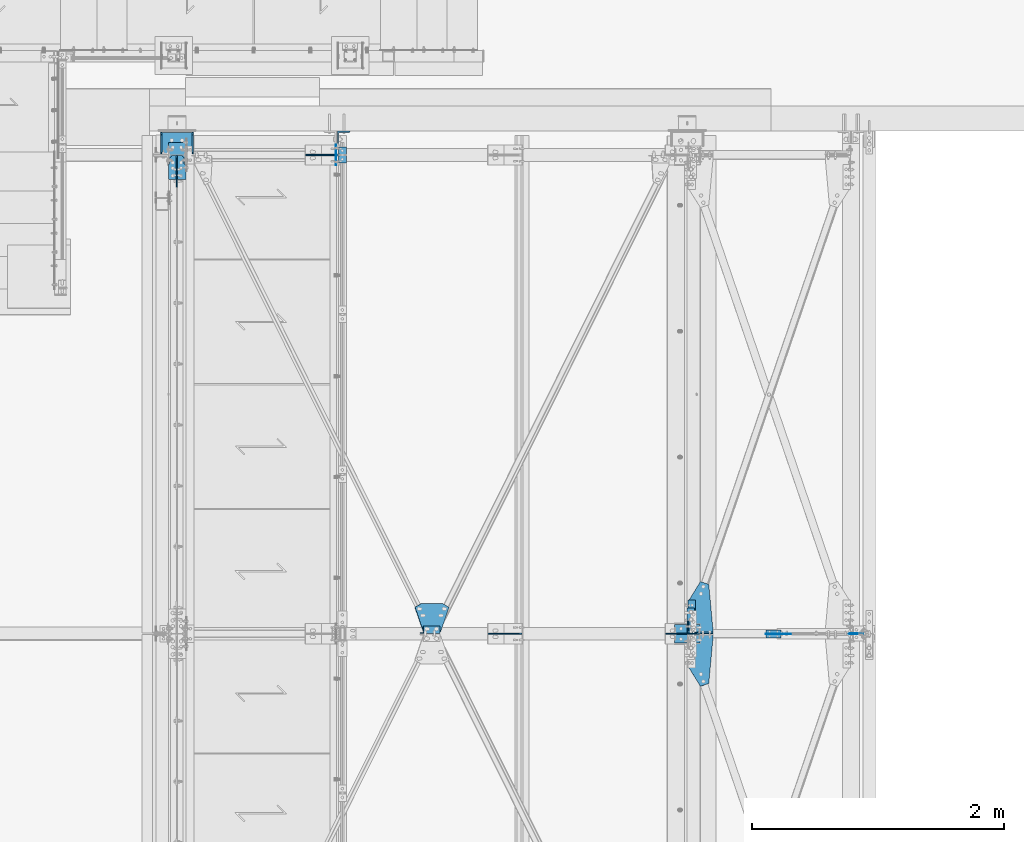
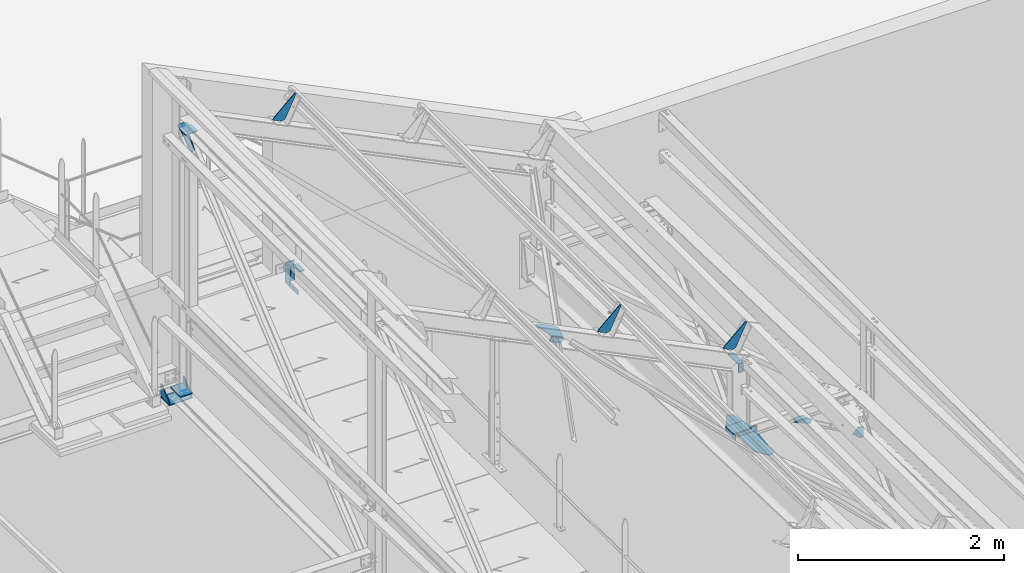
# One storey, part 112 of 362: 20 beams, 2 members, 17 elements without a shape of their own.
"""IFC2X3 building model written with IfcOpenShell, lengths in millimetres."""

from ifc_helpers import new_model, si_unit, frame, frame_2d, origin_with_axes, origin_2d_with_axis, place, context, subcontext, project, spatial, polyline, circle_curve, parameter, trimmed, segment, composite_curve, rectangle, l_section, outline, extrude, clip, halfspace, material, type_object, element, aggregate, save


model = new_model("IFC2X3")

# Units and contexts
model_context = context("Model", 3, precision=1e-05, world=origin_with_axes())
body_context = subcontext(model_context, "Body", "Model", "MODEL_VIEW")
ifc_project = project(units=[si_unit("LENGTHUNIT", "METRE", prefix="MILLI"), si_unit("AREAUNIT", "SQUARE_METRE"), si_unit("VOLUMEUNIT", "CUBIC_METRE"), si_unit("MASSUNIT", "GRAM", prefix="KILO"), si_unit("TIMEUNIT", "SECOND"), si_unit("PLANEANGLEUNIT", "RADIAN"), si_unit("SOLIDANGLEUNIT", "STERADIAN"), si_unit("THERMODYNAMICTEMPERATUREUNIT", "DEGREE_CELSIUS"), si_unit("LUMINOUSINTENSITYUNIT", "LUMEN")], contexts=[model_context])

# Site, building, storey
site_placement = place(None, origin_with_axes())
site = spatial("IfcSite", under=ifc_project, at=site_placement, Name="Undefined", CompositionType="ELEMENT")
building_placement = place(site_placement, origin_with_axes())
building = spatial("IfcBuilding", under=site, at=building_placement, Name="Undefined", CompositionType="ELEMENT")
storey_placement = place(building_placement, origin_with_axes())
storey = spatial("IfcBuildingStorey", under=building, at=storey_placement, Name="Undefined", CompositionType="ELEMENT", Elevation=0.0)

# Assembly, beam
assembly_1_placement = place(storey_placement, origin_with_axes())
assembly_1 = element("IfcElementAssembly", 1, at=assembly_1_placement, inside=storey, Name="MAIN COURANTE", AssemblyPlace="NOTDEFINED", PredefinedType="NOTDEFINED")
ifc_material = material(Name="Undefined/S235-E24")
beam_type_1 = type_object("IfcBeamType", Name="PL10*60", PredefinedType="NOTDEFINED")
beam_1_placement = place(assembly_1_placement, frame((35593.9917224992, 15265.0000000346, 8244.99999825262), z_axis=(-1.0, 0.0, 0.0), x_axis=(0.0, -1.0, 0.0)))
beam_1 = element("IfcBeam", 2, at=beam_1_placement, type_object=beam_type_1, material=ifc_material, Name="PLATINE", ObjectType="PL10*60", context=body_context, shape_type="SweptSolid", body=[
    extrude(rectangle(XDim=10.0, YDim=60.0, at=origin_2d_with_axis()), frame((130.0, 0.0, 0.0), z_axis=(-1.0, 0.0, 0.0), x_axis=(0.0, -1.0, 0.0)), (0.0, 0.0, 1.0), 130.0),
])
aggregate(assembly_1, [beam_1])

assembly_2_placement = place(storey_placement, origin_with_axes())
assembly_2 = element("IfcElementAssembly", 3, at=assembly_2_placement, inside=storey, AssemblyPlace="NOTDEFINED", PredefinedType="NOTDEFINED")
beam_type_2 = type_object("IfcBeamType", Name="L60*6", PredefinedType="NOTDEFINED")
beam_2_placement = place(assembly_2_placement, frame((38365.0000000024, 11666.8513345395, 7527.27741224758), z_axis=(-1.05403257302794e-09, -0.0314112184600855, -0.999506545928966), x_axis=(0.0, -0.999506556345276, 0.031410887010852)))
beam_2 = element("IfcBeam", 4, at=beam_2_placement, type_object=beam_type_2, material=ifc_material, Name="ATTACHE", ObjectType="L60*6", context=body_context, shape_type="SweptSolid", body=[
    extrude(l_section(Depth=60.0, Width=60.0, Thickness=6.0, FilletRadius=8.0, EdgeRadius=4.0, at=origin_2d_with_axis()), frame((200.0, 0.0, 0.0), z_axis=(-1.0, 0.0, 0.0), x_axis=(0.0, -1.0, 0.0)), (0.0, 0.0, 1.0), 200.0),
])
aggregate(assembly_2, [beam_2])

assembly_3_placement = place(storey_placement, origin_with_axes())
assembly_3 = element("IfcElementAssembly", 5, at=assembly_3_placement, inside=storey, Name="TRAVERSE SHED", AssemblyPlace="NOTDEFINED", PredefinedType="NOTDEFINED")
beam_type_3 = type_object("IfcBeamType", Name="PL10*200", PredefinedType="NOTDEFINED")
beam_3_placement = place(assembly_3_placement, frame((38330.0, 11474.8056218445, 7694.39265439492), z_axis=(-1.0, 0.0, 0.0), x_axis=(0.0, -0.999506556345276, 0.031410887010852)))
beam_3 = element("IfcBeam", 6, at=beam_3_placement, type_object=beam_type_3, material=ifc_material, Name="PLATINE", ObjectType="PL10*200", context=body_context, shape_type="SweptSolid", body=[
    extrude(rectangle(XDim=10.0, YDim=200.0, at=origin_2d_with_axis()), frame((150.0, 0.0, 0.0), z_axis=(-1.0, 0.0, 0.0), x_axis=(0.0, -1.0, 0.0)), (0.0, 0.0, 1.0), 150.0),
])
aggregate(assembly_3, [beam_3])

# Assembly, member
assembly_4_placement = place(storey_placement, origin_with_axes())
assembly_4 = element("IfcElementAssembly", 7, at=assembly_4_placement, inside=storey, AssemblyPlace="NOTDEFINED", PredefinedType="NOTDEFINED")
member_type_1 = type_object("IfcMemberType", Name="L60*6", PredefinedType="NOTDEFINED")
member_1_placement = place(assembly_4_placement, frame((36356.4176003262, 11433.0002509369, 9417.96207206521), z_axis=(0.0, 1.0, 0.0), x_axis=(-0.897398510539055, -1.29999898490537e-08, 0.441220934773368)))
member_1 = element("IfcMember", 8, at=member_1_placement, type_object=member_type_1, material=ifc_material, Name="ATTACHE", ObjectType="L60*6", context=body_context, shape_type="SweptSolid", body=[
    extrude(l_section(Depth=60.0, Width=60.0, Thickness=6.0, FilletRadius=8.0, EdgeRadius=4.0, at=origin_2d_with_axis()), frame((150.0, 0.0, 0.0), z_axis=(-1.0, 0.0, 0.0), x_axis=(0.0, -1.0, 0.0)), (0.0, 0.0, 1.0), 150.0),
])
aggregate(assembly_4, [member_1])

# Assembly, beam
assembly_5_placement = place(storey_placement, origin_with_axes())
assembly_5 = element("IfcElementAssembly", 9, at=assembly_5_placement, inside=storey, Name="PANNE SHED", AssemblyPlace="NOTDEFINED", PredefinedType="NOTDEFINED")
beam_type_4 = type_object("IfcBeamType", Name="TOLE8*140", PredefinedType="NOTDEFINED")
beam_4_placement = place(assembly_5_placement, frame((35310.1044072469, 15200.0, 10117.3786897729), z_axis=(0.0, -1.0, 0.0), x_axis=(-0.441220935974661, 0.0, -0.89739850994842)))
beam_4 = element("IfcBeam", 10, at=beam_4_placement, type_object=beam_type_4, material=ifc_material, Name="RAIDISSEUR", ObjectType="TOLE8*140", context=body_context, shape_type="SweptSolid", body=[
    extrude(outline(polyline([(0.0, 0.0), (19.9999999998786, -3.63797880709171e-12), (20.0000000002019, 109.999999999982), (-9.99999999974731, 139.99998998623), (-300.0000000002, 139.999893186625), (-300.000000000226, 119.999893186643), (0.0, 0.0)])), frame((0.0, 0.0, -4.0), z_axis=(0.0, 0.0, 1.0), x_axis=(1.0, 0.0, 0.0)), (0.0, 0.0, 1.0), 8.0),
])
aggregate(assembly_5, [beam_4])

assembly_6_placement = place(storey_placement, origin_with_axes())
assembly_6 = element("IfcElementAssembly", 11, at=assembly_6_placement, inside=storey, Name="PANNE SHED", AssemblyPlace="NOTDEFINED", PredefinedType="NOTDEFINED")
beam_5_placement = place(assembly_6_placement, frame((38167.3881652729, 11400.0, 8712.54750741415), z_axis=(0.0, -1.0, 0.0), x_axis=(-0.441220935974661, 0.0, -0.89739850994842)))
beam_5 = element("IfcBeam", 12, at=beam_5_placement, type_object=beam_type_4, material=ifc_material, Name="RAIDISSEUR", ObjectType="TOLE8*140", context=body_context, shape_type="SweptSolid", body=[
    extrude(outline(polyline([(0.0, 0.0), (19.9999999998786, -3.63797880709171e-12), (20.0000000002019, 109.999999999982), (-9.99999999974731, 139.99998998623), (-300.0000000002, 139.999893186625), (-300.000000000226, 119.999893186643), (0.0, 0.0)])), frame((0.0, 0.0, -4.0), z_axis=(0.0, 0.0, 1.0), x_axis=(1.0, 0.0, 0.0)), (0.0, 0.0, 1.0), 8.0),
])
aggregate(assembly_6, [beam_5])

assembly_7_placement = place(storey_placement, origin_with_axes())
assembly_7 = element("IfcElementAssembly", 13, at=assembly_7_placement, inside=storey, Name="PANNE SHED", AssemblyPlace="NOTDEFINED", PredefinedType="NOTDEFINED")
beam_6_placement = place(assembly_7_placement, frame((36758.937741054, 11400.0, 9405.03563331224), z_axis=(0.0, -1.0, 0.0), x_axis=(-0.441220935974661, 0.0, -0.89739850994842)))
beam_6 = element("IfcBeam", 14, at=beam_6_placement, type_object=beam_type_4, material=ifc_material, Name="RAIDISSEUR", ObjectType="TOLE8*140", context=body_context, shape_type="SweptSolid", body=[
    extrude(outline(polyline([(0.0, 0.0), (19.9999999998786, -3.63797880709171e-12), (20.0000000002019, 109.999999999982), (-9.99999999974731, 139.99998998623), (-300.0000000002, 139.999893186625), (-300.000000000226, 119.999893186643), (0.0, 0.0)])), frame((0.0, 0.0, -4.0), z_axis=(0.0, 0.0, 1.0), x_axis=(1.0, 0.0, 0.0)), (0.0, 0.0, 1.0), 8.0),
])
aggregate(assembly_7, [beam_6])

assembly_8_placement = place(storey_placement, origin_with_axes())
assembly_8 = element("IfcElementAssembly", 15, at=assembly_8_placement, inside=storey, AssemblyPlace="NOTDEFINED", PredefinedType="NOTDEFINED")
beam_type_5 = type_object("IfcBeamType", Name="TOLE6*175", PredefinedType="NOTDEFINED")
beam_7_placement = place(assembly_8_placement, frame((39553.8612508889, 11399.9999999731, 7221.78488455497), z_axis=(0.0, -1.0, 0.0), x_axis=(0.742856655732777, 0.0, -0.66945051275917)))
beam_7 = element("IfcBeam", 16, at=beam_7_placement, type_object=beam_type_5, material=ifc_material, Name="GOUSSET", ObjectType="TOLE6*175", context=body_context, shape_type="Clipping", body=[
    clip(clip(clip(clip(clip(clip(extrude(outline(polyline([(0.0, 0.0), (181.917663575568, 1.28420651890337e-09), (211.631942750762, 26.7780208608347), (131.297882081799, 115.920814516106), (-10.5213727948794, 48.8804740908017), (0.0, 0.0)])), frame((0.0, 0.0, -3.0), z_axis=(0.0, 0.0, 1.0), x_axis=(1.0, 0.0, 0.0)), (0.0, 0.0, 1.0), 6.0), halfspace(frame((-8526.76141441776, -6325.63528092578, -65.0000000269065), z_axis=(0.0, 0.0, 1.0), x_axis=(0.742856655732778, 0.669450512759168, 0.0)), True)), halfspace(frame((-8592.24436861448, -6252.97203332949, 64.9999999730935), z_axis=(0.0, 0.0, 1.0), x_axis=(0.742856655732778, 0.669450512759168, 0.0)), False)), halfspace(frame((-8592.24436861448, -6252.97203332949, 3734.99999997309), z_axis=(0.0, 0.0, 1.0), x_axis=(0.742856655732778, 0.669450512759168, 0.0)), False)), halfspace(frame((-8592.24436861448, -6252.97203332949, 3864.99999997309), z_axis=(0.0, 0.0, 1.0), x_axis=(0.742856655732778, 0.669450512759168, 0.0)), False)), halfspace(frame((-15511.9541167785, -12488.903559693, -65.0000000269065), z_axis=(0.0, 0.0, 1.0), x_axis=(0.742856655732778, 0.669450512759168, 0.0)), True)), halfspace(frame((76.3371354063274, 81.8482316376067, 1.81898940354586e-12), z_axis=(-0.99999974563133, -0.000713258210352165, 0.0), x_axis=(0.0, 0.0, 1.0)), False)),
])
aggregate(assembly_8, [beam_7])

# Assembly, member
assembly_9_placement = place(storey_placement, origin_with_axes())
assembly_9 = element("IfcElementAssembly", 17, at=assembly_9_placement, inside=storey, AssemblyPlace="NOTDEFINED", PredefinedType="NOTDEFINED")
member_type_2 = type_object("IfcMemberType", Name="L200*100*10", PredefinedType="NOTDEFINED")
member_2_placement = place(assembly_9_placement, frame((38435.0, 11451.7182414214, 7590.06582970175), z_axis=(1.0, 0.0, 0.0), x_axis=(7.58071938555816e-11, 0.0314107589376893, 0.999506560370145)))
member_2 = element("IfcMember", 18, at=member_2_placement, type_object=member_type_2, material=ifc_material, Name="ATTACHE", ObjectType="L200*100*10", context=body_context, shape_type="SweptSolid", body=[
    extrude(l_section(Depth=200.0, Width=100.0, Thickness=10.0, FilletRadius=15.0, EdgeRadius=7.5, at=origin_2d_with_axis()), frame((60.0, 0.0, 0.0), z_axis=(-1.0, 0.0, 0.0), x_axis=(0.0, -1.0, 0.0)), (0.0, 0.0, 1.0), 60.0),
])
aggregate(assembly_9, [member_2])

# Assembly, beam
assembly_10_placement = place(storey_placement, origin_with_axes())
assembly_10 = element("IfcElementAssembly", 19, at=assembly_10_placement, inside=storey, Name="MONTANT", AssemblyPlace="NOTDEFINED", PredefinedType="NOTDEFINED")
beam_type_6 = type_object("IfcBeamType", Name="PL10*133", PredefinedType="NOTDEFINED")
beam_8_placement = place(assembly_10_placement, frame((34280.0, 15300.0, 7255.0), z_axis=(1.0, 0.0, 0.0), x_axis=(0.0, -1.0, 0.0)))
beam_8 = element("IfcBeam", 20, at=beam_8_placement, type_object=beam_type_6, material=ifc_material, Name="PLATINE", ObjectType="PL10*133", context=body_context, shape_type="SweptSolid", body=[
    extrude(rectangle(XDim=10.0, YDim=133.0, at=origin_2d_with_axis()), frame((200.0, 0.0, 0.0), z_axis=(-1.0, 0.0, 0.0), x_axis=(0.0, -1.0, 0.0)), (0.0, 0.0, 1.0), 200.0),
])

assembly_11_placement = place(storey_placement, origin_with_axes())
assembly_11 = element("IfcElementAssembly", 21, at=assembly_11_placement, inside=storey, AssemblyPlace="NOTDEFINED", PredefinedType="NOTDEFINED")
beam_type_7 = type_object("IfcBeamType", Name="L200*100*10", PredefinedType="NOTDEFINED")
beam_9_placement = place(assembly_11_placement, frame((38390.0, 11503.5, 8400.0), z_axis=(0.0, 1.0, 0.0), x_axis=(-1.0, 0.0, 0.0)))
beam_9 = element("IfcBeam", 22, at=beam_9_placement, type_object=beam_type_7, material=ifc_material, Name="ATTACHE", ObjectType="L200*100*10", context=body_context, shape_type="SweptSolid", body=[
    extrude(l_section(Depth=200.0, Width=100.0, Thickness=10.0, FilletRadius=15.0, EdgeRadius=7.5, at=origin_2d_with_axis()), frame((60.0, 0.0, 0.0), z_axis=(-1.0, 0.0, 0.0), x_axis=(0.0, -1.0, 0.0)), (0.0, 0.0, 1.0), 60.0),
])
aggregate(assembly_11, [beam_9])

assembly_12_placement = place(storey_placement, origin_with_axes())
assembly_12 = element("IfcElementAssembly", 23, at=assembly_12_placement, inside=storey, AssemblyPlace="NOTDEFINED", PredefinedType="NOTDEFINED")
beam_type_8 = type_object("IfcBeamType", Name="TOLE6*60", PredefinedType="NOTDEFINED")
beam_10_placement = place(assembly_12_placement, frame((35542.9917140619, 15120.0, 7985.0), z_axis=(-1.0, 0.0, 0.0), x_axis=(0.0, 0.0, 1.0)))
beam_10 = element("IfcBeam", 24, at=beam_10_placement, type_object=beam_type_8, material=ifc_material, Name="PLATINE", ObjectType="TOLE6*60", context=body_context, shape_type="SweptSolid", body=[
    extrude(outline(polyline([(0.0, 0.0), (60.0, 0.0), (60.0, 159.999984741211), (0.0, 159.999984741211), (0.0, 0.0)])), frame((0.0, 0.0, -3.0), z_axis=(0.0, 0.0, 1.0), x_axis=(1.0, 0.0, 0.0)), (0.0, 0.0, 1.0), 6.0),
])
aggregate(assembly_12, [beam_10])

assembly_13_placement = place(storey_placement, origin_with_axes())
assembly_13 = element("IfcElementAssembly", 25, at=assembly_13_placement, inside=storey, AssemblyPlace="NOTDEFINED", PredefinedType="NOTDEFINED")
beam_type_9 = type_object("IfcBeamType", Name="TOLE6*281", PredefinedType="NOTDEFINED")
beam_11_placement = place(assembly_13_placement, frame((36370.9779301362, 11413.0001538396, 9447.5762782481), z_axis=(-0.441220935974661, 0.0, -0.89739850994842), x_axis=(-0.897398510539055, -1.29999898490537e-08, 0.441220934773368)))
beam_11 = element("IfcBeam", 26, at=beam_11_placement, type_object=beam_type_9, material=ifc_material, Name="GOUSSET", ObjectType="TOLE6*281", context=body_context, shape_type="SweptSolid", body=[
    extrude(outline(polyline([(0.0, 0.0), (149.999999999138, -4.0381564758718e-10), (225.299438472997, 196.258819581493), (172.823120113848, 225.348953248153), (-22.830436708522, 225.348953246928), (-75.3067550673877, 196.258804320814), (0.0, 0.0)])), frame((0.0, 0.0, -3.0), z_axis=(0.0, 0.0, 1.0), x_axis=(1.0, 0.0, 0.0)), (0.0, 0.0, 1.0), 6.0),
])
aggregate(assembly_13, [beam_11])

# Assembly, beams
assembly_14_placement = place(storey_placement, origin_with_axes())
assembly_14 = element("IfcElementAssembly", 27, at=assembly_14_placement, inside=storey, AssemblyPlace="NOTDEFINED", PredefinedType="NOTDEFINED")
beam_type_10 = type_object("IfcBeamType", Name="TOLE6*100", PredefinedType="NOTDEFINED")
beam_12_placement = place(assembly_14_placement, frame((38955.0, 11398.1199999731, 7565.58403042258), z_axis=(0.0, -1.0, 0.0), x_axis=(0.0, 0.0, -1.0)))
beam_12 = element("IfcBeam", 28, at=beam_12_placement, type_object=beam_type_10, material=ifc_material, Name="GOUSSET", ObjectType="TOLE6*100", context=body_context, shape_type="SweptSolid", body=[
    extrude(outline(polyline([(0.0, 0.0), (25.0, 0.0), (100.264556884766, 174.95246887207), (56.9098281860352, 199.859649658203), (-2.37123549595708e-06, 120.0), (0.0, 0.0)])), frame((0.0, 0.0, -3.0), z_axis=(0.0, 0.0, 1.0), x_axis=(1.0, 0.0, 0.0)), (0.0, 0.0, 1.0), 6.0),
])
beam_type_11 = type_object("IfcBeamType", Name="PL6*120", PredefinedType="NOTDEFINED")
beam_13_placement = place(assembly_14_placement, frame((39015.0, 11430.0053320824, 7567.73683472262), z_axis=(1.0, 0.0, 0.0), x_axis=(0.0, -0.999506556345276, 0.031410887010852)))
beam_13 = element("IfcBeam", 29, at=beam_13_placement, type_object=beam_type_11, material=ifc_material, Name="PLATINE", ObjectType="PL6*120", context=body_context, shape_type="SweptSolid", body=[
    extrude(rectangle(XDim=6.0, YDim=120.0, at=origin_2d_with_axis()), frame((63.999999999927, 0.0, 0.0), z_axis=(-1.0, 0.0, 0.0), x_axis=(0.0, -1.0, 0.0)), (0.0, 0.0, 1.0), 64.0),
])
aggregate(assembly_14, [beam_12, beam_13])

# Assembly, beam
assembly_15_placement = place(storey_placement, origin_with_axes())
assembly_15 = element("IfcElementAssembly", 30, at=assembly_15_placement, inside=storey, AssemblyPlace="NOTDEFINED", PredefinedType="NOTDEFINED")
beam_type_12 = type_object("IfcBeamType", Name="TOLE6*190", PredefinedType="NOTDEFINED")
beam_14_placement = place(assembly_15_placement, frame((38435.271538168, 11813.8603975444, 7555.6737565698), z_axis=(7.58071938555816e-11, 0.0314107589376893, 0.999506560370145), x_axis=(-0.525777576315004, -0.850202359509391, 0.0267186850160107)))
beam_14 = element("IfcBeam", 31, at=beam_14_placement, type_object=beam_type_12, material=ifc_material, Name="GOUSSET", ObjectType="TOLE6*190", context=body_context, shape_type="SweptSolid", body=[
    extrude(outline(polyline([(0.0, 0.0), (171.691482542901, -6.18456397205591e-10), (631.027404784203, 283.919891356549), (707.794860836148, 437.494720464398), (653.70501708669, 481.927734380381), (328.681610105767, 320.40301513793), (274.241790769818, 286.753265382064), (-15.5598268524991, 68.2487487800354), (0.0, 0.0)])), frame((0.0, 0.0, -3.0), z_axis=(0.0, 0.0, 1.0), x_axis=(1.0, 0.0, 0.0)), (0.0, 0.0, 1.0), 6.0),
])
aggregate(assembly_15, [beam_14])

assembly_16_placement = place(storey_placement, origin_with_axes())
assembly_16 = element("IfcElementAssembly", 32, at=assembly_16_placement, inside=storey, AssemblyPlace="NOTDEFINED", PredefinedType="NOTDEFINED")
beam_type_13 = type_object("IfcBeamType", Name="L100*10", PredefinedType="NOTDEFINED")
beam_15_placement = place(assembly_16_placement, frame((35602.4917140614, 15339.9999999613, 8210.00437164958), z_axis=(1.0, 0.0, 0.0), x_axis=(0.0, 0.0, -1.0)))
beam_15 = element("IfcBeam", 33, at=beam_15_placement, type_object=beam_type_13, material=ifc_material, Name="ATTACHE", ObjectType="L100*10", context=body_context, shape_type="SweptSolid", body=[
    extrude(l_section(Depth=100.0, Width=100.0, Thickness=10.0, FilletRadius=12.0, EdgeRadius=6.0, at=origin_2d_with_axis()), frame((240.0, 0.0, 0.0), z_axis=(-1.0, 0.0, 0.0), x_axis=(0.0, -1.0, 0.0)), (0.0, 0.0, 1.0), 240.0),
])
aggregate(assembly_16, [beam_15])

# Beam
beam_type_14 = type_object("IfcBeamType", Name="TOLE8*213", PredefinedType="NOTDEFINED")
beam_16_placement = place(assembly_10_placement, frame((34280.0, 15079.9969221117, 10413.0), z_axis=(-1.0, 0.0, 0.0), x_axis=(0.0, 1.0, 0.0)))
beam_16 = element("IfcBeam", 34, at=beam_16_placement, type_object=beam_type_14, material=ifc_material, Name="GOUSSET", ObjectType="TOLE8*213", context=body_context, shape_type="SweptSolid", body=[
    extrude(outline(polyline([(0.0, 0.0), (97.25, 0.0), (117.25, 20.0), (117.25, 100.0), (-84.6368789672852, 212.985397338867), (-135.912002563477, 151.578063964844), (0.0, 0.0)])), frame((0.0, 0.0, -4.0), z_axis=(0.0, 0.0, 1.0), x_axis=(1.0, 0.0, 0.0)), (0.0, 0.0, 1.0), 8.0),
])

beam_type_15 = type_object("IfcBeamType", Name="TOLE10*192", PredefinedType="NOTDEFINED")
beam_17_placement = place(assembly_10_placement, frame((34213.5, 15004.9969221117, 10418.0), z_axis=(0.0, 0.0, -1.0), x_axis=(0.0, 1.0, 0.0)))
beam_17 = element("IfcBeam", 35, at=beam_17_placement, type_object=beam_type_15, material=ifc_material, Name="PLAT", ObjectType="TOLE10*192", context=body_context, shape_type="SweptSolid", body=[
    extrude(outline(composite_curve([segment(trimmed(circle_curve(frame_2d((10.0, 10.0), x_axis=(-1.0, 0.0)), 10.0), [parameter(0.0)], [parameter(1.5707963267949)], True, "PARAMETER"), True, "CONTINUOUS"), segment(polyline([(9.99999999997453, 6.91215973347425e-11), (124.5, 0.0), (124.5, 9.0), (172.25, 9.0), (192.25, 29.0), (192.25, 104.0), (172.25, 124.0), (124.0, 124.0), (124.0, 140.0), (10.0, 140.0)]), True, "CONTINUOUS"), segment(trimmed(circle_curve(frame_2d((10.0, 130.0), x_axis=(0.0, 1.0)), 10.0), [parameter(0.0)], [parameter(1.5707963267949)], True, "PARAMETER"), True, "CONTINUOUS"), segment(polyline([(0.0, 130.0), (-1.81898940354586e-10, 10.0000000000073)]), True, "CONTINUOUS")], self_intersect=True)), frame((0.0, 0.0, -5.0), z_axis=(0.0, 0.0, 1.0), x_axis=(1.0, 0.0, 0.0)), (0.0, 0.0, 1.0), 10.0),
])

aggregate(assembly_10, [beam_16, beam_8, beam_17])

# Assembly, beams
assembly_17_placement = place(storey_placement, origin_with_axes())
assembly_17 = element("IfcElementAssembly", 36, at=assembly_17_placement, inside=storey, AssemblyPlace="NOTDEFINED", PredefinedType="NOTDEFINED")
beam_type_16 = type_object("IfcBeamType", Name="PL10*260", PredefinedType="NOTDEFINED")
beam_18_placement = place(assembly_17_placement, frame((34279.9999999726, 15380.0000003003, 7112.00000133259), z_axis=(-1.0, 0.0, 0.0), x_axis=(0.0, -1.0, 0.0)))
beam_18 = element("IfcBeam", 37, at=beam_18_placement, type_object=beam_type_16, material=ifc_material, Name="SABOT", ObjectType="PL10*260", context=body_context, shape_type="SweptSolid", body=[
    extrude(rectangle(XDim=10.0, YDim=260.0, at=origin_2d_with_axis()), frame((169.99999962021, 0.0, 0.0), z_axis=(-1.0, 0.0, 0.0), x_axis=(0.0, -1.0, 0.0)), (0.0, 0.0, 1.0), 170.0),
])
beam_type_17 = type_object("IfcBeamType", Name="PL10*155", PredefinedType="NOTDEFINED")
beam_19_placement = place(assembly_17_placement, frame((34154.9999999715, 15210.0000006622, 7117.00000133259), z_axis=(-1.0, 0.0, 0.0), x_axis=(0.0, 0.0, 1.0)))
beam_19 = element("IfcBeam", 38, at=beam_19_placement, type_object=beam_type_17, material=ifc_material, Name="RAIDISSEUR", ObjectType="PL10*155", context=body_context, shape_type="SweptSolid", body=[
    extrude(outline(polyline([(0.0, 0.0), (19.9999999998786, -3.63797880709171e-12), (154.999206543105, 150.000000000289), (154.999145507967, 170.000000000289), (29.9999970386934, 170.00000000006), (-2.43872305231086e-06, 140.000000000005), (0.0, 0.0)])), frame((0.0, 0.0, -5.0), z_axis=(0.0, 0.0, 1.0), x_axis=(1.0, 0.0, 0.0)), (0.0, 0.0, 1.0), 10.0),
])
beam_20_placement = place(assembly_17_placement, frame((34404.9999999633, 15210.0000006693, 7117.0000013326), z_axis=(-1.0, 0.0, 0.0), x_axis=(0.0, 0.0, 1.0)))
beam_20 = element("IfcBeam", 39, at=beam_20_placement, type_object=beam_type_17, material=ifc_material, Name="RAIDISSEUR", ObjectType="PL10*155", context=body_context, shape_type="SweptSolid", body=[
    extrude(outline(polyline([(0.0, 0.0), (19.9999999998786, -3.63797880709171e-12), (154.999206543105, 150.000000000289), (154.999145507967, 170.000000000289), (29.9999970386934, 170.00000000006), (-2.43872305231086e-06, 140.000000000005), (0.0, 0.0)])), frame((0.0, 0.0, -5.0), z_axis=(0.0, 0.0, 1.0), x_axis=(1.0, 0.0, 0.0)), (0.0, 0.0, 1.0), 10.0),
])
aggregate(assembly_17, [beam_19, beam_20, beam_18])

save(model, "model.ifc")
